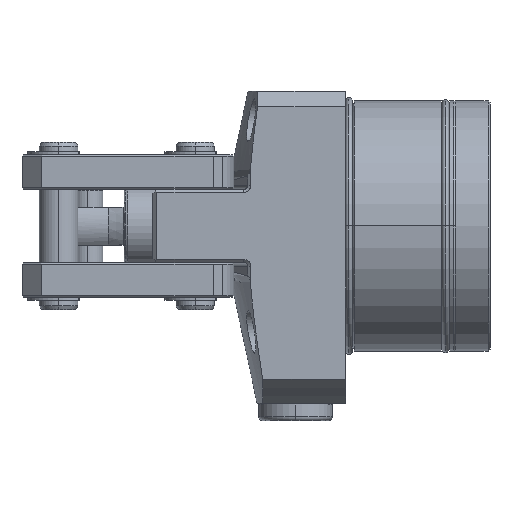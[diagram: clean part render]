
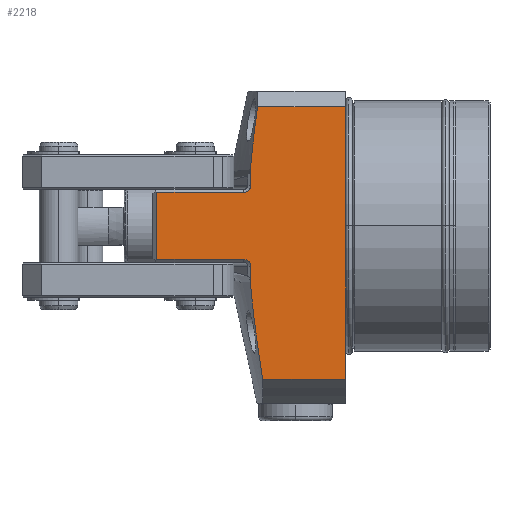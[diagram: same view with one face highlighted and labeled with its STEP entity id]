
A CAD part, top view. The second image highlights one B-rep face of the part: STEP entity #2218.
In plain terms, the highlighted planar face has unit normal (0, 0, 1).
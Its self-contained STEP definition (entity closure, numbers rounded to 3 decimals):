
#1519=B_SPLINE_CURVE_WITH_KNOTS('',3,(#11658,#11659,#11660,#11661),
 .UNSPECIFIED.,.F.,.F.,(4,4),(0.,1.),.UNSPECIFIED.);
#1520=B_SPLINE_CURVE_WITH_KNOTS('',3,(#11666,#11667,#11668,#11669,#11670,
#11671,#11672,#11673,#11674,#11675,#11676,#11677,#11678,#11679,#11680,#11681,
#11682,#11683),.UNSPECIFIED.,.F.,.F.,(4,2,2,2,2,2,2,2,4),(0.,0.125,0.25,
0.375,0.5,0.625,0.75,0.875,1.),.UNSPECIFIED.);
#1521=B_SPLINE_CURVE_WITH_KNOTS('',3,(#11691,#11692,#11693,#11694,#11695,
#11696,#11697,#11698,#11699,#11700,#11701,#11702,#11703,#11704,#11705,#11706,
#11707,#11708),.UNSPECIFIED.,.F.,.F.,(4,2,2,2,2,2,2,2,4),(0.,0.125,0.25,
0.375,0.5,0.625,0.75,0.875,1.),.UNSPECIFIED.);
#1522=B_SPLINE_CURVE_WITH_KNOTS('',3,(#11712,#11713,#11714,#11715),
 .UNSPECIFIED.,.F.,.F.,(4,4),(0.,1.),.UNSPECIFIED.);
#1828=PLANE('',#8046);
#2218=ADVANCED_FACE('',(#2648),#1828,.F.);
#2648=FACE_OUTER_BOUND('',#3027,.T.);
#3027=EDGE_LOOP('',(#4786,#4787,#4788,#4789,#4790,#4791,#4792,#4793,#4794,
#4795,#4796,#4797));
#3480=LINE('',#11664,#3825);
#3481=LINE('',#11685,#3826);
#3482=LINE('',#11687,#3827);
#3483=LINE('',#11689,#3828);
#3484=LINE('',#11710,#3829);
#3485=LINE('',#11717,#3830);
#3486=LINE('',#11719,#3831);
#3487=LINE('',#11721,#3832);
#3825=VECTOR('',#9567,1.);
#3826=VECTOR('',#9568,1.);
#3827=VECTOR('',#9569,1.);
#3828=VECTOR('',#9570,1.);
#3829=VECTOR('',#9571,1.);
#3830=VECTOR('',#9572,1.);
#3831=VECTOR('',#9573,1.);
#3832=VECTOR('',#9574,1.);
#4786=ORIENTED_EDGE('',*,*,#6736,.T.);
#4787=ORIENTED_EDGE('',*,*,#6737,.T.);
#4788=ORIENTED_EDGE('',*,*,#6738,.T.);
#4789=ORIENTED_EDGE('',*,*,#6739,.T.);
#4790=ORIENTED_EDGE('',*,*,#6740,.T.);
#4791=ORIENTED_EDGE('',*,*,#6741,.T.);
#4792=ORIENTED_EDGE('',*,*,#6742,.T.);
#4793=ORIENTED_EDGE('',*,*,#6743,.T.);
#4794=ORIENTED_EDGE('',*,*,#6744,.T.);
#4795=ORIENTED_EDGE('',*,*,#6745,.F.);
#4796=ORIENTED_EDGE('',*,*,#6746,.F.);
#4797=ORIENTED_EDGE('',*,*,#6747,.T.);
#6034=VERTEX_POINT('',#11662);
#6035=VERTEX_POINT('',#11663);
#6036=VERTEX_POINT('',#11665);
#6037=VERTEX_POINT('',#11684);
#6038=VERTEX_POINT('',#11686);
#6039=VERTEX_POINT('',#11688);
#6040=VERTEX_POINT('',#11690);
#6041=VERTEX_POINT('',#11709);
#6042=VERTEX_POINT('',#11711);
#6043=VERTEX_POINT('',#11716);
#6044=VERTEX_POINT('',#11718);
#6045=VERTEX_POINT('',#11720);
#6736=EDGE_CURVE('',#6034,#6035,#1519,.T.);
#6737=EDGE_CURVE('',#6035,#6036,#3480,.T.);
#6738=EDGE_CURVE('',#6036,#6037,#1520,.T.);
#6739=EDGE_CURVE('',#6037,#6038,#3481,.T.);
#6740=EDGE_CURVE('',#6038,#6039,#3482,.T.);
#6741=EDGE_CURVE('',#6039,#6040,#3483,.T.);
#6742=EDGE_CURVE('',#6040,#6041,#1521,.T.);
#6743=EDGE_CURVE('',#6041,#6042,#3484,.T.);
#6744=EDGE_CURVE('',#6042,#6043,#1522,.T.);
#6745=EDGE_CURVE('',#6044,#6043,#3485,.T.);
#6746=EDGE_CURVE('',#6045,#6044,#3486,.T.);
#6747=EDGE_CURVE('',#6045,#6034,#3487,.T.);
#8046=AXIS2_PLACEMENT_3D('',#11722,#9575,#9576);
#9567=DIRECTION('',(0.,-1.,0.));
#9568=DIRECTION('',(-1.,0.,0.));
#9569=DIRECTION('',(0.,-1.,0.));
#9570=DIRECTION('',(1.,0.,0.));
#9571=DIRECTION('',(0.,-1.,0.));
#9572=DIRECTION('',(-1.,0.,0.));
#9573=DIRECTION('',(0.,-1.,0.));
#9574=DIRECTION('',(-1.,0.,0.));
#9575=DIRECTION('',(0.,0.,-1.));
#9576=DIRECTION('',(0.,-1.,0.));
#11658=CARTESIAN_POINT('',(-22.837,31.,35.));
#11659=CARTESIAN_POINT('',(-23.528,26.098,35.));
#11660=CARTESIAN_POINT('',(-24.131,21.186,35.));
#11661=CARTESIAN_POINT('',(-24.573,16.255,35.));
#11662=CARTESIAN_POINT('',(-22.837,31.,35.));
#11663=CARTESIAN_POINT('',(-24.573,16.255,35.));
#11664=CARTESIAN_POINT('',(-24.573,31.,35.));
#11665=CARTESIAN_POINT('',(-24.573,10.5,35.));
#11666=CARTESIAN_POINT('',(-24.573,10.5,35.));
#11667=CARTESIAN_POINT('',(-24.573,10.382,35.));
#11668=CARTESIAN_POINT('',(-24.585,10.264,35.));
#11669=CARTESIAN_POINT('',(-24.632,10.033,35.));
#11670=CARTESIAN_POINT('',(-24.668,9.92,35.));
#11671=CARTESIAN_POINT('',(-24.761,9.702,35.));
#11672=CARTESIAN_POINT('',(-24.819,9.598,35.));
#11673=CARTESIAN_POINT('',(-24.954,9.402,35.));
#11674=CARTESIAN_POINT('',(-25.032,9.311,35.));
#11675=CARTESIAN_POINT('',(-25.205,9.144,35.));
#11676=CARTESIAN_POINT('',(-25.299,9.069,35.));
#11677=CARTESIAN_POINT('',(-25.502,8.938,35.));
#11678=CARTESIAN_POINT('',(-25.61,8.882,35.));
#11679=CARTESIAN_POINT('',(-25.836,8.792,35.));
#11680=CARTESIAN_POINT('',(-25.953,8.758,35.));
#11681=CARTESIAN_POINT('',(-26.192,8.712,35.));
#11682=CARTESIAN_POINT('',(-26.314,8.7,35.));
#11683=CARTESIAN_POINT('',(-26.436,8.7,35.));
#11684=CARTESIAN_POINT('',(-26.436,8.7,35.));
#11685=CARTESIAN_POINT('',(-49.,8.7,35.));
#11686=CARTESIAN_POINT('',(-49.,8.7,35.));
#11687=CARTESIAN_POINT('',(-49.,31.,35.));
#11688=CARTESIAN_POINT('',(-49.,-8.7,35.));
#11689=CARTESIAN_POINT('',(-26.222,-8.7,35.));
#11690=CARTESIAN_POINT('',(-26.436,-8.7,35.));
#11691=CARTESIAN_POINT('',(-26.436,-8.7,35.));
#11692=CARTESIAN_POINT('',(-26.314,-8.7,35.));
#11693=CARTESIAN_POINT('',(-26.192,-8.712,35.));
#11694=CARTESIAN_POINT('',(-25.953,-8.758,35.));
#11695=CARTESIAN_POINT('',(-25.836,-8.792,35.));
#11696=CARTESIAN_POINT('',(-25.61,-8.882,35.));
#11697=CARTESIAN_POINT('',(-25.502,-8.938,35.));
#11698=CARTESIAN_POINT('',(-25.299,-9.069,35.));
#11699=CARTESIAN_POINT('',(-25.205,-9.144,35.));
#11700=CARTESIAN_POINT('',(-25.032,-9.311,35.));
#11701=CARTESIAN_POINT('',(-24.954,-9.402,35.));
#11702=CARTESIAN_POINT('',(-24.819,-9.598,35.));
#11703=CARTESIAN_POINT('',(-24.761,-9.702,35.));
#11704=CARTESIAN_POINT('',(-24.668,-9.92,35.));
#11705=CARTESIAN_POINT('',(-24.632,-10.033,35.));
#11706=CARTESIAN_POINT('',(-24.585,-10.264,35.));
#11707=CARTESIAN_POINT('',(-24.573,-10.382,35.));
#11708=CARTESIAN_POINT('',(-24.573,-10.5,35.));
#11709=CARTESIAN_POINT('',(-24.573,-10.5,35.));
#11710=CARTESIAN_POINT('',(-24.573,-13.096,35.));
#11711=CARTESIAN_POINT('',(-24.573,-16.255,35.));
#11712=CARTESIAN_POINT('',(-24.573,-16.255,35.));
#11713=CARTESIAN_POINT('',(-23.866,-24.144,35.));
#11714=CARTESIAN_POINT('',(-22.758,-31.981,35.));
#11715=CARTESIAN_POINT('',(-21.51,-39.799,35.));
#11716=CARTESIAN_POINT('',(-21.51,-39.799,35.));
#11717=CARTESIAN_POINT('',(31.5,-39.799,35.));
#11718=CARTESIAN_POINT('',(0.,-39.799,35.));
#11719=CARTESIAN_POINT('',(0.,31.,35.));
#11720=CARTESIAN_POINT('',(0.,31.,35.));
#11721=CARTESIAN_POINT('',(31.501,31.,35.));
#11722=CARTESIAN_POINT('',(31.501,31.,35.));
